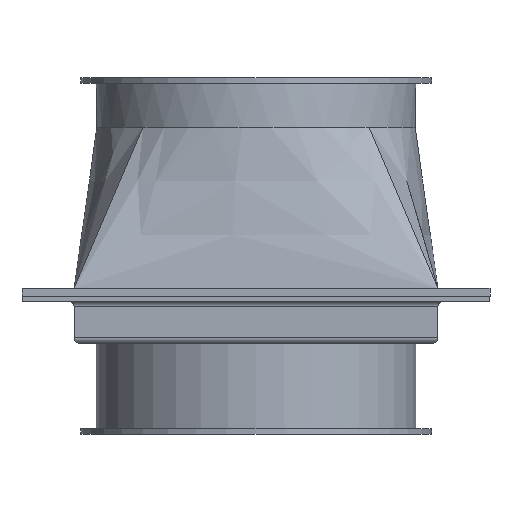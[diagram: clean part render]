
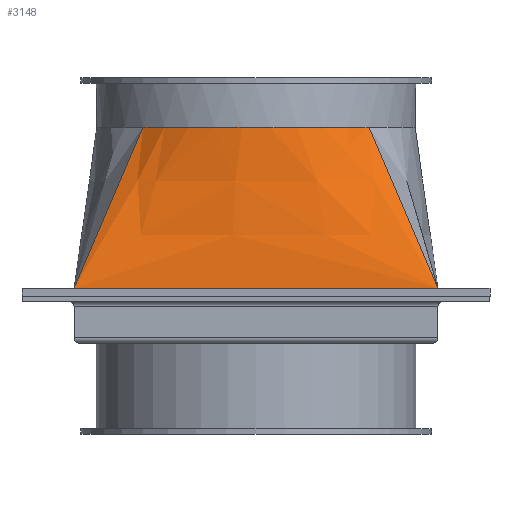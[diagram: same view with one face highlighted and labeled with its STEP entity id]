
A CAD part, left-side view. The second image highlights one B-rep face of the part: STEP entity #3148.
In plain terms, the highlighted free-form (B-spline) face has degree [3, 3] with [7, 4] control points.
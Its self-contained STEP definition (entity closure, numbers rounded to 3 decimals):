
#2414=CARTESIAN_POINT('',(0.0,0.0,0.0));
#2415=VERTEX_POINT('',#2414);
#2424=CARTESIAN_POINT('',(0.,140.0,0.0));
#2425=VERTEX_POINT('',#2424);
#2426=CARTESIAN_POINT('',(0.,140.0,0.0));
#2427=DIRECTION('',(0.0,-1.0,0.0));
#2428=VECTOR('',#2427,140.0);
#2429=LINE('',#2426,#2428);
#2430=EDGE_CURVE('',#2425,#2415,#2429,.T.);
#3080=CARTESIAN_POINT('',(-26.513,26.513,-62.));
#3081=VERTEX_POINT('',#3080);
#3089=CARTESIAN_POINT('',(0.0,0.0,0.0));
#3090=CARTESIAN_POINT('',(-8.838,8.838,-20.667));
#3091=CARTESIAN_POINT('',(-17.675,17.675,-41.333));
#3092=CARTESIAN_POINT('',(-26.513,26.513,-62.));
#3093=QUASI_UNIFORM_CURVE('',3,(#3089,#3090,#3091,#3092),.UNSPECIFIED.,.F.,.U.);
#3094=EDGE_CURVE('',#2415,#3081,#3093,.T.);
#3099=CARTESIAN_POINT('',(0.0,0.0,0.0));
#3100=CARTESIAN_POINT('',(0.,13.333,0.0));
#3101=CARTESIAN_POINT('',(0.,40.,0.0));
#3102=CARTESIAN_POINT('',(0.,80.0,0.0));
#3103=CARTESIAN_POINT('',(0.,113.333,0.0));
#3104=CARTESIAN_POINT('',(0.,133.333,0.0));
#3105=CARTESIAN_POINT('',(0.,140.0,0.0));
#3106=CARTESIAN_POINT('',(-8.838,8.838,-20.667));
#3107=CARTESIAN_POINT('',(-6.668,19.893,-20.667));
#3108=CARTESIAN_POINT('',(-3.323,42.998,-20.667));
#3109=CARTESIAN_POINT('',(-2.265,79.04,-20.667));
#3110=CARTESIAN_POINT('',(-4.862,108.684,-20.667));
#3111=CARTESIAN_POINT('',(-7.755,125.632,-20.667));
#3112=CARTESIAN_POINT('',(-8.838,131.162,-20.667));
#3113=CARTESIAN_POINT('',(-17.675,17.675,-41.333));
#3114=CARTESIAN_POINT('',(-13.34,26.459,-41.333));
#3115=CARTESIAN_POINT('',(-6.646,45.995,-41.333));
#3116=CARTESIAN_POINT('',(-4.53,78.083,-41.333));
#3117=CARTESIAN_POINT('',(-9.726,104.032,-41.333));
#3118=CARTESIAN_POINT('',(-15.505,117.935,-41.333));
#3119=CARTESIAN_POINT('',(-17.675,122.325,-41.333));
#3120=CARTESIAN_POINT('',(-26.513,26.513,-62.));
#3121=CARTESIAN_POINT('',(-20.007,33.019,-62.));
#3122=CARTESIAN_POINT('',(-9.969,48.993,-62.));
#3123=CARTESIAN_POINT('',(-6.795,77.124,-62.));
#3124=CARTESIAN_POINT('',(-14.588,99.384,-62.));
#3125=CARTESIAN_POINT('',(-23.26,110.234,-62.));
#3126=CARTESIAN_POINT('',(-26.513,113.487,-62.));
#3127=B_SPLINE_SURFACE_WITH_KNOTS('',3,3,((#3099,#3106,#3113,#3120),(#3100,#3107,#3114,#3121),(#3101,#3108,#3115,#3122),(#3102,#3109,#3116,#3123),(#3103,#3110,#3117,#3124),(#3104,#3111,#3118,#3125),(#3105,#3112,#3119,#3126)),.UNSPECIFIED.,.F.,.F.,.U.,(4,1,1,1,4),(4,4),(0.0,0.286,0.571,0.857,1.0),(0.0,1.0),.UNSPECIFIED.);
#3128=ORIENTED_EDGE('',*,*,#2430,.T.);
#3129=ORIENTED_EDGE('',*,*,#3094,.T.);
#3130=CARTESIAN_POINT('',(-26.513,113.487,-62.));
#3131=VERTEX_POINT('',#3130);
#3132=CARTESIAN_POINT('',(-70.,70.,-62.));
#3133=DIRECTION('',(0.0,0.0,-1.0));
#3134=DIRECTION('',(1.0,0.0,0.0));
#3135=AXIS2_PLACEMENT_3D('',#3132,#3133,#3134);
#3136=CIRCLE('',#3135,61.5);
#3137=EDGE_CURVE('',#3131,#3081,#3136,.T.);
#3138=ORIENTED_EDGE('',*,*,#3137,.F.);
#3139=CARTESIAN_POINT('',(0.,140.0,0.0));
#3140=CARTESIAN_POINT('',(-8.838,131.162,-20.667));
#3141=CARTESIAN_POINT('',(-17.675,122.325,-41.333));
#3142=CARTESIAN_POINT('',(-26.513,113.487,-62.));
#3143=QUASI_UNIFORM_CURVE('',3,(#3139,#3140,#3141,#3142),.UNSPECIFIED.,.F.,.U.);
#3144=EDGE_CURVE('',#2425,#3131,#3143,.T.);
#3145=ORIENTED_EDGE('',*,*,#3144,.F.);
#3146=EDGE_LOOP('',(#3128,#3129,#3138,#3145));
#3147=FACE_OUTER_BOUND('',#3146,.T.);
#3148=ADVANCED_FACE('',(#3147),#3127,.F.);
